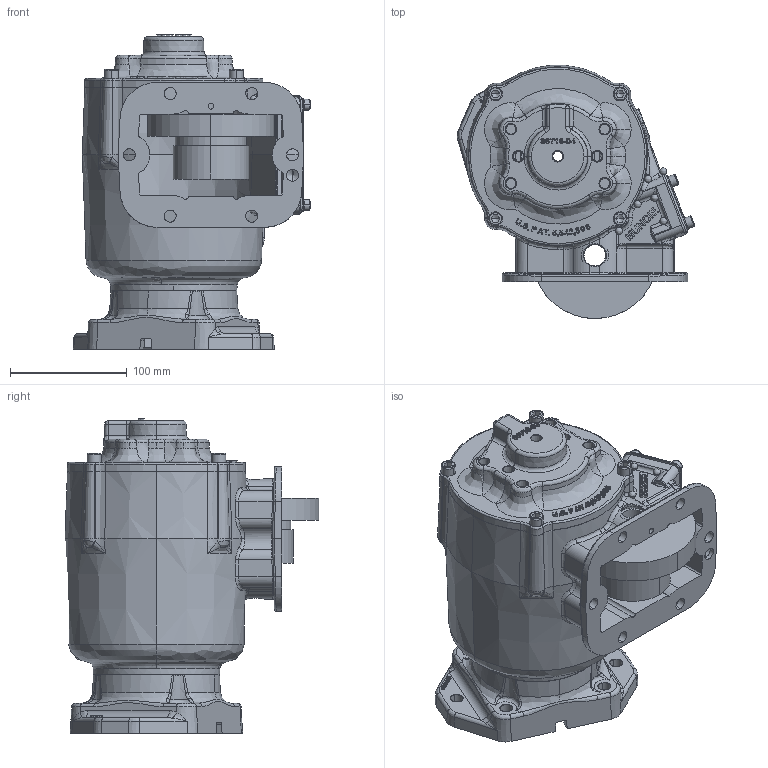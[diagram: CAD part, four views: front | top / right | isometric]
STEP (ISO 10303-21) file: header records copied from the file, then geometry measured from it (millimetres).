
FILE_DESCRIPTION (( 'STEP AP203' ), '1' );
FILE_NAME ('CS6S-XXXXX-X1KX.STEP', '2011-11-29T15:46:29', ( 'User' ), ( 'Muncie Power Products, Inc.' ), 'SwSTEP 2.0', 'SolidWorks 2011', '' );
FILE_SCHEMA (( 'CONFIG_CONTROL_DESIGN' ));
Length unit declared in the file: inch
Products named in the file (3): CS6S-XXXXX-X1KX; 14T37779; CS6S-XXXXX-X16X
Assembly tree (2 placements, depth 2):
  CS6S-XXXXX-X1KX
    CS6S-XXXXX-X16X
    14T37779
Bounding box: 203.05 x 216.75 x 268.87 mm (x, y, z)
Volume: 342576.6 mm3; surface area: 432823.8 mm2
Topology: 1 solids, 13 shells, 2466 faces, 6542 edges, 4117 vertices
Faces by surface type: bspline 1129, plane 568, cylinder 447, cone 322
Entity records: 175452 total; most frequent: CARTESIAN_POINT 123301, ORIENTED_EDGE 12846, DIRECTION 7216, EDGE_CURVE 6424, VERTEX_POINT 4117, B_SPLINE_CURVE_WITH_KNOTS 2773, EDGE_LOOP 2727, ADVANCED_FACE 2466
